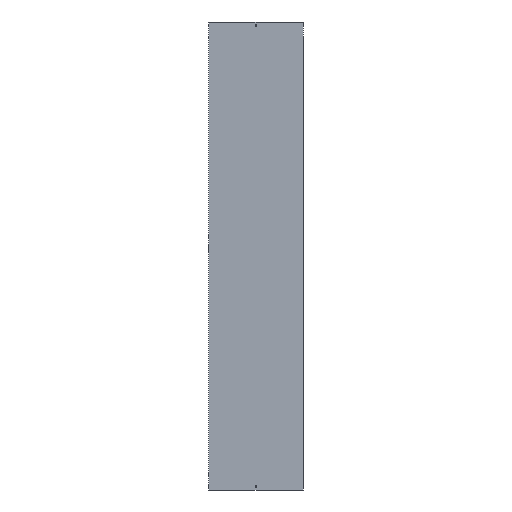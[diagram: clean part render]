
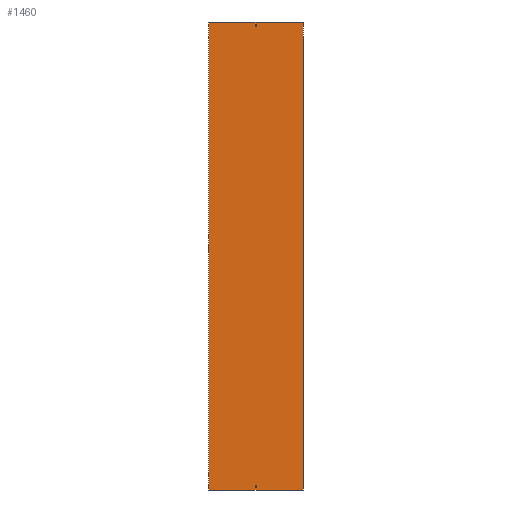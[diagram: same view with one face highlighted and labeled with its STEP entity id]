
A CAD part, front view. The second image highlights one B-rep face of the part: STEP entity #1460.
In plain terms, the highlighted planar face has unit normal (0, -1, 0).
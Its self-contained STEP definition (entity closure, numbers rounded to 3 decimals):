
#16 = VECTOR ( 'NONE', #2380, 1000. ) ;
#23 = DIRECTION ( 'NONE',  ( 1., 0., 0. ) ) ;
#27 = VERTEX_POINT ( 'NONE', #637 ) ;
#31 = LINE ( 'NONE', #868, #16 ) ;
#33 = CARTESIAN_POINT ( 'NONE',  ( -202., 0., 1000. ) ) ;
#35 = VERTEX_POINT ( 'NONE', #2332 ) ;
#39 = DIRECTION ( 'NONE',  ( 0., 0., 1. ) ) ;
#115 = LINE ( 'NONE', #2026, #2646 ) ;
#161 = DIRECTION ( 'NONE',  ( -1., 0., 0. ) ) ;
#190 = CARTESIAN_POINT ( 'NONE',  ( -202., 0., 1000. ) ) ;
#191 = ORIENTED_EDGE ( 'NONE', *, *, #1898, .F. ) ;
#233 = VECTOR ( 'NONE', #2078, 1000. ) ;
#248 = CARTESIAN_POINT ( 'NONE',  ( 3.25, 0., -988. ) ) ;
#332 = DIRECTION ( 'NONE',  ( 0., 1., 0. ) ) ;
#357 = PLANE ( 'NONE',  #1659 ) ;
#360 = CARTESIAN_POINT ( 'NONE',  ( 3.25, 0., -988. ) ) ;
#409 = VECTOR ( 'NONE', #2462, 1000. ) ;
#413 = VECTOR ( 'NONE', #1043, 1000. ) ;
#424 = LINE ( 'NONE', #1683, #413 ) ;
#485 = DIRECTION ( 'NONE',  ( 1., 0., 0. ) ) ;
#569 = FACE_BOUND ( 'NONE', #1435, .T. ) ;
#570 = ORIENTED_EDGE ( 'NONE', *, *, #1240, .T. ) ;
#637 = CARTESIAN_POINT ( 'NONE',  ( 3.25, 0., 988. ) ) ;
#644 = EDGE_CURVE ( 'NONE', #677, #1324, #1173, .T. ) ;
#677 = VERTEX_POINT ( 'NONE', #2300 ) ;
#719 = EDGE_CURVE ( 'NONE', #1863, #2479, #2536, .T. ) ;
#726 = CARTESIAN_POINT ( 'NONE',  ( 202., 0., 1000. ) ) ;
#796 = CARTESIAN_POINT ( 'NONE',  ( -202., 0., 1000. ) ) ;
#846 = LINE ( 'NONE', #796, #2246 ) ;
#868 = CARTESIAN_POINT ( 'NONE',  ( -3.25, 0., 988. ) ) ;
#885 = ORIENTED_EDGE ( 'NONE', *, *, #2476, .F. ) ;
#921 = CARTESIAN_POINT ( 'NONE',  ( -202., 0., -1000. ) ) ;
#929 = ORIENTED_EDGE ( 'NONE', *, *, #1001, .F. ) ;
#950 = EDGE_CURVE ( 'NONE', #2141, #1349, #2631, .T. ) ;
#987 = ORIENTED_EDGE ( 'NONE', *, *, #950, .T. ) ;
#1001 = EDGE_CURVE ( 'NONE', #1600, #2584, #1565, .T. ) ;
#1011 = EDGE_LOOP ( 'NONE', ( #987, #191, #929, #2700 ) ) ;
#1017 = CARTESIAN_POINT ( 'NONE',  ( -202., 0., 1000. ) ) ;
#1043 = DIRECTION ( 'NONE',  ( 0., 0., -1. ) ) ;
#1051 = CARTESIAN_POINT ( 'NONE',  ( -3.25, 0., -979. ) ) ;
#1140 = CARTESIAN_POINT ( 'NONE',  ( 3.25, 0., 979. ) ) ;
#1173 = LINE ( 'NONE', #2439, #2599 ) ;
#1193 = CARTESIAN_POINT ( 'NONE',  ( 3.25, 0., -979. ) ) ;
#1211 = VECTOR ( 'NONE', #1661, 1000. ) ;
#1225 = EDGE_CURVE ( 'NONE', #1600, #2141, #846, .T. ) ;
#1229 = FACE_BOUND ( 'NONE', #1339, .T. ) ;
#1240 = EDGE_CURVE ( 'NONE', #35, #2356, #2575, .T. ) ;
#1242 = FACE_OUTER_BOUND ( 'NONE', #1011, .T. ) ;
#1324 = VERTEX_POINT ( 'NONE', #1140 ) ;
#1339 = EDGE_LOOP ( 'NONE', ( #570, #1729, #1379, #2554 ) ) ;
#1345 = VECTOR ( 'NONE', #39, 1000. ) ;
#1349 = VERTEX_POINT ( 'NONE', #1742 ) ;
#1379 = ORIENTED_EDGE ( 'NONE', *, *, #719, .T. ) ;
#1402 = CARTESIAN_POINT ( 'NONE',  ( -3.25, 0., -988. ) ) ;
#1435 = EDGE_LOOP ( 'NONE', ( #1852, #885, #1856, #1487 ) ) ;
#1460 = ADVANCED_FACE ( 'NONE', ( #1242, #569, #1229 ), #357, .F. ) ;
#1481 = EDGE_CURVE ( 'NONE', #27, #1675, #2074, .T. ) ;
#1487 = ORIENTED_EDGE ( 'NONE', *, *, #2730, .F. ) ;
#1565 = LINE ( 'NONE', #33, #2337 ) ;
#1600 = VERTEX_POINT ( 'NONE', #190 ) ;
#1623 = DIRECTION ( 'NONE',  ( -1., 0., 0. ) ) ;
#1659 = AXIS2_PLACEMENT_3D ( 'NONE', #1017, #332, #161 ) ;
#1661 = DIRECTION ( 'NONE',  ( 0., 0., -1. ) ) ;
#1675 = VERTEX_POINT ( 'NONE', #1956 ) ;
#1683 = CARTESIAN_POINT ( 'NONE',  ( 202., 0., 1000. ) ) ;
#1690 = CARTESIAN_POINT ( 'NONE',  ( 3.25, 0., 988. ) ) ;
#1704 = DIRECTION ( 'NONE',  ( 0., 0., -1. ) ) ;
#1729 = ORIENTED_EDGE ( 'NONE', *, *, #1871, .T. ) ;
#1742 = CARTESIAN_POINT ( 'NONE',  ( 202., 0., -1000. ) ) ;
#1833 = CARTESIAN_POINT ( 'NONE',  ( -202., 0., -1000. ) ) ;
#1852 = ORIENTED_EDGE ( 'NONE', *, *, #644, .F. ) ;
#1856 = ORIENTED_EDGE ( 'NONE', *, *, #1481, .F. ) ;
#1863 = VERTEX_POINT ( 'NONE', #1193 ) ;
#1871 = EDGE_CURVE ( 'NONE', #2356, #1863, #115, .T. ) ;
#1885 = VECTOR ( 'NONE', #485, 1000. ) ;
#1898 = EDGE_CURVE ( 'NONE', #2584, #1349, #424, .T. ) ;
#1956 = CARTESIAN_POINT ( 'NONE',  ( -3.25, 0., 988. ) ) ;
#2026 = CARTESIAN_POINT ( 'NONE',  ( -3.25, 0., -979. ) ) ;
#2074 = LINE ( 'NONE', #2267, #409 ) ;
#2078 = DIRECTION ( 'NONE',  ( 0., 0., 1. ) ) ;
#2141 = VERTEX_POINT ( 'NONE', #1833 ) ;
#2165 = EDGE_CURVE ( 'NONE', #2479, #35, #2499, .T. ) ;
#2246 = VECTOR ( 'NONE', #1704, 1000. ) ;
#2250 = DIRECTION ( 'NONE',  ( 1., 0., 0. ) ) ;
#2267 = CARTESIAN_POINT ( 'NONE',  ( -3.25, 0., 988. ) ) ;
#2300 = CARTESIAN_POINT ( 'NONE',  ( -3.25, 0., 979. ) ) ;
#2332 = CARTESIAN_POINT ( 'NONE',  ( -3.25, 0., -988. ) ) ;
#2337 = VECTOR ( 'NONE', #23, 1000. ) ;
#2356 = VERTEX_POINT ( 'NONE', #1051 ) ;
#2380 = DIRECTION ( 'NONE',  ( 0., 0., -1. ) ) ;
#2439 = CARTESIAN_POINT ( 'NONE',  ( -3.25, 0., 979. ) ) ;
#2462 = DIRECTION ( 'NONE',  ( -1., 0., 0. ) ) ;
#2476 = EDGE_CURVE ( 'NONE', #1675, #677, #31, .T. ) ;
#2479 = VERTEX_POINT ( 'NONE', #248 ) ;
#2498 = CARTESIAN_POINT ( 'NONE',  ( -3.25, 0., -988. ) ) ;
#2499 = LINE ( 'NONE', #1402, #2520 ) ;
#2520 = VECTOR ( 'NONE', #1623, 1000. ) ;
#2536 = LINE ( 'NONE', #360, #1211 ) ;
#2554 = ORIENTED_EDGE ( 'NONE', *, *, #2165, .T. ) ;
#2575 = LINE ( 'NONE', #2498, #1345 ) ;
#2584 = VERTEX_POINT ( 'NONE', #726 ) ;
#2599 = VECTOR ( 'NONE', #2658, 1000. ) ;
#2631 = LINE ( 'NONE', #921, #1885 ) ;
#2646 = VECTOR ( 'NONE', #2250, 1000. ) ;
#2658 = DIRECTION ( 'NONE',  ( 1., 0., 0. ) ) ;
#2700 = ORIENTED_EDGE ( 'NONE', *, *, #1225, .T. ) ;
#2730 = EDGE_CURVE ( 'NONE', #1324, #27, #2759, .T. ) ;
#2759 = LINE ( 'NONE', #1690, #233 ) ;
